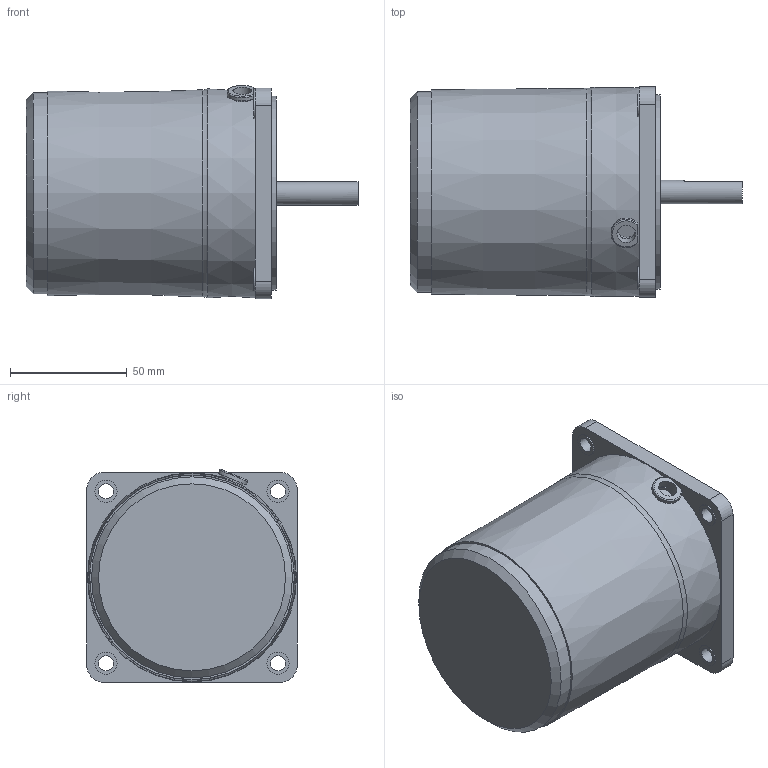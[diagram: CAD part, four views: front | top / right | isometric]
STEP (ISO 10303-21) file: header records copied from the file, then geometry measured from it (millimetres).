
FILE_DESCRIPTION((''),'2;1');
FILE_NAME('D:\STP파일\40W MOTOR\S9I40K.stp','2013-05-20T16:48:52',('leebh'),(''),'Autodesk Inventor 2011','Autodesk Inventor 2011','');
FILE_SCHEMA(('AUTOMOTIVE_DESIGN { 1 0 10303 214 1 1 1 1 }'));
Length unit declared in the file: millimetre
Products named in the file (1): 부품3
Bounding box: 142 x 90 x 91.17 mm (x, y, z)
Volume: 648295.6 mm3; surface area: 49712 mm2
Topology: 1 solids, 2 shells, 88 faces, 209 edges, 137 vertices
Faces by surface type: plane 46, cylinder 36, cone 3, torus 2, bspline 1
Full cylindrical faces by diameter (mm): 6.5 x4, 8 x1, 9.5 x4, 10 x2, 40 x1, 83 x1, 86 x1
Entity records: 2632 total; most frequent: CARTESIAN_POINT 596, DIRECTION 432, ORIENTED_EDGE 370, EDGE_CURVE 185, AXIS2_PLACEMENT_3D 166, VERTEX_POINT 132, EDGE_LOOP 129, VECTOR 100
